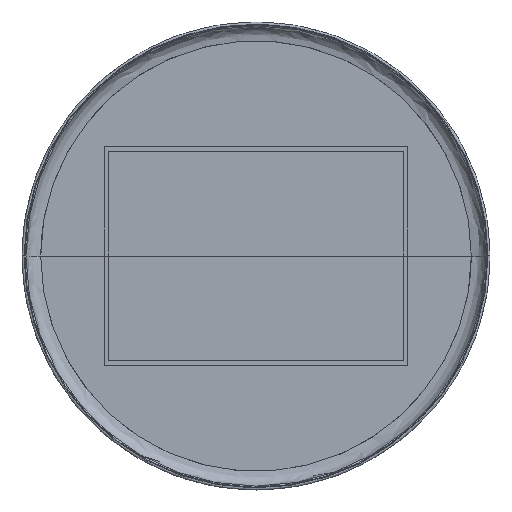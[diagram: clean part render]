
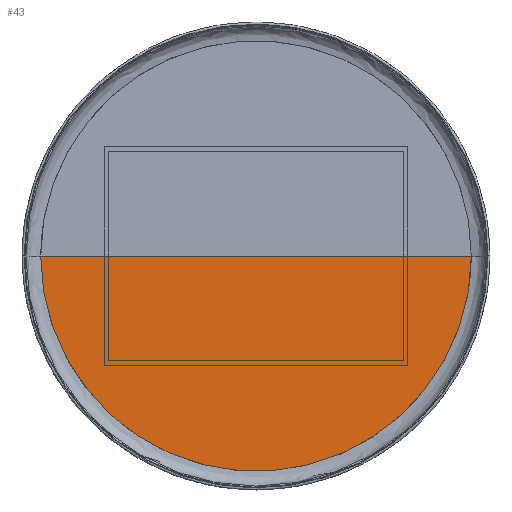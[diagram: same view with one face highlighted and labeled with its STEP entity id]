
A CAD part, top view. The second image highlights one B-rep face of the part: STEP entity #43.
In plain terms, the highlighted planar face has unit normal (0, 0, 1).
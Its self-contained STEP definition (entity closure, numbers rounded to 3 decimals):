
#43=ADVANCED_FACE('',(#98),#791,.T.);
#98=FACE_OUTER_BOUND('',#153,.T.);
#153=EDGE_LOOP('',(#289,#290));
#289=ORIENTED_EDGE('',*,*,#488,.T.);
#290=ORIENTED_EDGE('',*,*,#489,.T.);
#488=EDGE_CURVE('',#734,#733,#634,.T.);
#489=EDGE_CURVE('',#733,#734,#635,.T.);
#634=B_SPLINE_CURVE_WITH_KNOTS('',1,(#2535,#2536),.UNSPECIFIED.,.F.,.F.,
(2,2),(-2.72,0.),.UNSPECIFIED.);
#635=B_SPLINE_CURVE_WITH_KNOTS('',3,(#2537,#2538,#2539,#2540,#2541,#2542,
#2543,#2544,#2545,#2546,#2547,#2548,#2549,#2550,#2551,#2552,#2553,#2554,
#2555,#2556,#2557),.UNSPECIFIED.,.F.,.F.,(4,1,1,1,1,1,1,1,1,1,1,1,1,1,1,
1,1,1,4),(0.,0.056,0.111,0.167,0.222,
0.278,0.333,0.389,0.444,
0.5,0.556,0.611,0.667,0.722,
0.778,0.833,0.889,0.944,
1.),.UNSPECIFIED.);
#733=VERTEX_POINT('',#2121);
#734=VERTEX_POINT('',#2122);
#791=PLANE('',#922);
#922=AXIS2_PLACEMENT_3D('',#2058,#992,$);
#992=DIRECTION('',(0.,0.,1.));
#2058=CARTESIAN_POINT('',(414.498,-416.585,351.3));
#2121=CARTESIAN_POINT('',(-414.465,0.,351.3));
#2122=CARTESIAN_POINT('',(414.465,0.,351.3));
#2535=CARTESIAN_POINT('',(414.465,0.,351.3));
#2536=CARTESIAN_POINT('',(-414.465,0.,351.3));
#2537=CARTESIAN_POINT('',(-414.465,0.,351.3));
#2538=CARTESIAN_POINT('',(-414.488,-24.116,351.3));
#2539=CARTESIAN_POINT('',(-410.235,-72.336,351.3));
#2540=CARTESIAN_POINT('',(-391.455,-142.477,351.3));
#2541=CARTESIAN_POINT('',(-360.764,-208.287,351.3));
#2542=CARTESIAN_POINT('',(-319.115,-267.769,351.3));
#2543=CARTESIAN_POINT('',(-267.769,-319.115,351.3));
#2544=CARTESIAN_POINT('',(-208.287,-360.764,351.3));
#2545=CARTESIAN_POINT('',(-142.477,-391.452,351.3));
#2546=CARTESIAN_POINT('',(-72.337,-410.246,351.3));
#2547=CARTESIAN_POINT('',(0.,-416.575,351.3));
#2548=CARTESIAN_POINT('',(72.337,-410.246,351.3));
#2549=CARTESIAN_POINT('',(142.477,-391.452,351.3));
#2550=CARTESIAN_POINT('',(208.287,-360.764,351.3));
#2551=CARTESIAN_POINT('',(267.769,-319.115,351.3));
#2552=CARTESIAN_POINT('',(319.115,-267.769,351.3));
#2553=CARTESIAN_POINT('',(360.764,-208.287,351.3));
#2554=CARTESIAN_POINT('',(391.455,-142.477,351.3));
#2555=CARTESIAN_POINT('',(410.235,-72.336,351.3));
#2556=CARTESIAN_POINT('',(414.488,-24.116,351.3));
#2557=CARTESIAN_POINT('',(414.465,0.,351.3));
